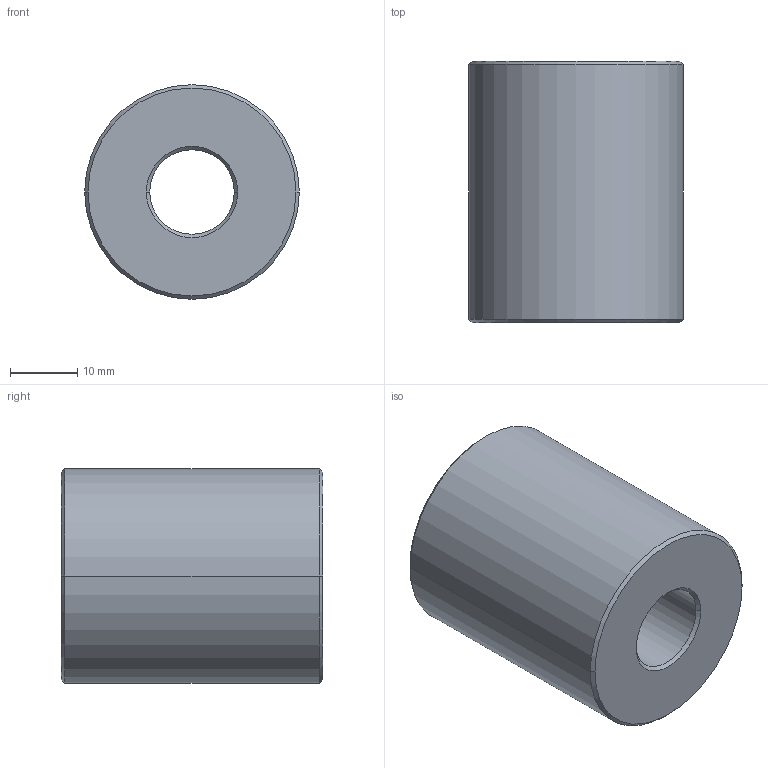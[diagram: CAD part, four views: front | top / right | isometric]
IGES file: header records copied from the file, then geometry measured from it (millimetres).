
Start section:  PTC IGES file: dummy_pipe_200.igs
Global section: file name: dummy_pipe_200.igs; native system: Creo Elements/Pro by Parametric Technology Corporation; preprocessor: 2010480; author: asus; organization: Unknown; date: 20121101.190359; units: millimetre
Bounding box: 32 x 39 x 32 mm (x, y, z)
Volume: 26467.7 mm3; surface area: 6741.5 mm2
Topology: 1 solids, 1 shells, 14 faces, 28 edges, 16 vertices
Faces by surface type: revolution 12, bspline 2
